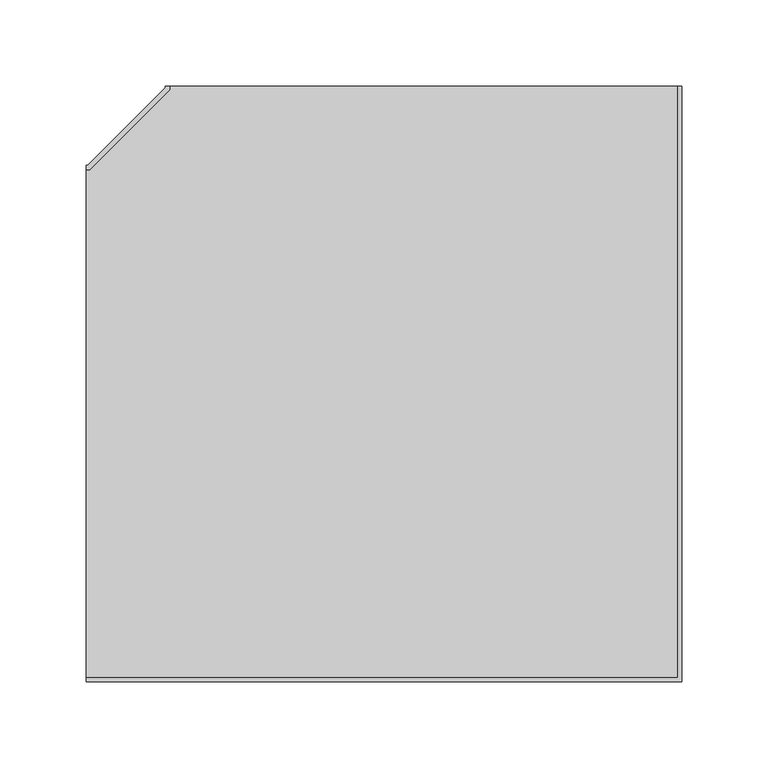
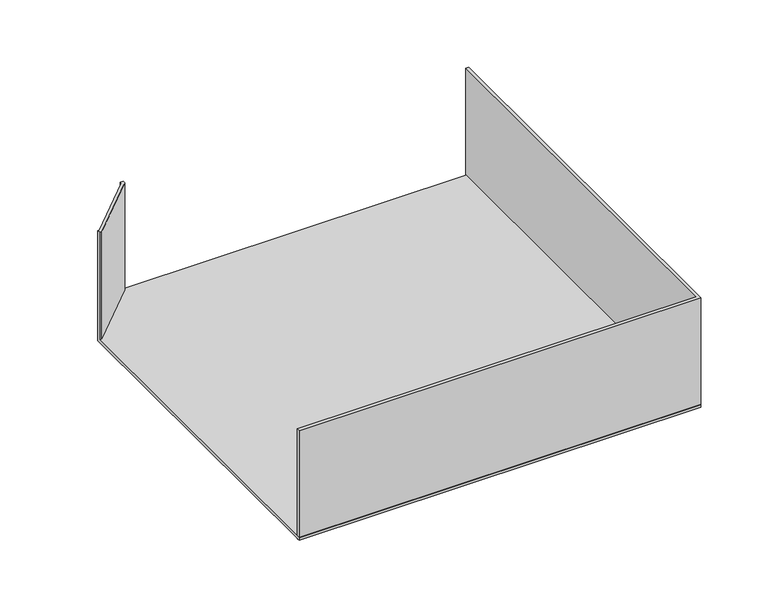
"""IFC4 building model written with IfcOpenShell, lengths in millimetres: cable carrier fitting geometry, BAKS_Horizontal bend : KKJ/KKMJ_H100."""

from ifc_helpers import new_model, si_unit, frame, origin, place, context, project, spatial, polyline, outline, extrude, faceted_brep, source, transform, mapped, element, save


def cable_carrier_fitting_42195290(model_context):
    return source(origin(), model_context, "Body", "SolidModel", [
        faceted_brep([(-196.0, 147.46, 50.0), (-196.0, 150.0, 50.0), (-196.0, 150.0, -50.0), (-196.0, -150.0, -50.0), (-196.0, -150.0, -47.46), (-196.0, 147.46, -47.46), (-193.9478976, 147.46, 50.0), (-147.46, 193.9478976, 50.0), (-147.46, 196.0, 50.0), (-150.0, 196.0, 50.0), (-150.0, 195.0, 50.0), (-195.0, 150.0, 50.0), (-195.0, 150.0, -47.46), (-195.0, 150.0, -50.0), (-150.0, 195.0, -50.0), (-150.0, 196.0, -50.0), (150.0, 196.0, -50.0), (150.0, -150.0, -50.0), (-193.9478976, 147.46, -47.46), (-150.0, 195.0, -47.46), (-147.46, 193.9478976, -47.46), (-147.46, 196.0, -47.46), (150.0, 196.0, -47.46), (150.0, -150.0, -47.46)], [[[0, 1, 2, 3, 4, 5]], [[1, 0, 6, 7, 8, 9, 10, 11]], [[2, 1, 11, 12, 13]], [[3, 2, 13, 14, 15, 16, 17]], [[6, 0, 5, 18]], [[11, 10, 19, 14, 13, 12]], [[7, 6, 18, 20]], [[9, 8, 21, 22, 16, 15]], [[10, 9, 15, 14, 19]], [[8, 7, 20, 21]], [[4, 23, 22, 21, 20, 18, 5]], [[23, 4, 3, 17]], [[22, 23, 17, 16]]]),
        extrude(outline(polyline([(-196.0, -150.0), (-196.0, -147.46), (147.46, -147.46), (147.46, 196.0), (150.0, 196.0), (150.0, -150.0), (-196.0, -150.0)])), frame((0.0, 0.0, -50.0), z_axis=(0.0, 0.0, 1.0), x_axis=(1.0, 0.0, 0.0)), (0.0, 0.0, 1.0), 100.0),
    ])


if __name__ == "__main__":
    model = new_model("IFC4")
    model_context = context("Model", 3, world=origin())
    ifc_project = project(units=[si_unit("LENGTHUNIT", "METRE", prefix="MILLI")], contexts=[model_context])
    site = spatial("IfcSite", under=ifc_project)
    building = spatial("IfcBuilding", under=site)
    placement = place(None, origin())
    cable_carrier_fitting_shape = cable_carrier_fitting_42195290(model_context)
    element("IfcCableCarrierFitting", 1, ObjectType="BAKS_Horizontal bend : KKJ/KKMJ_H100", at=placement, inside=building, context=model_context, shape_type="MappedRepresentation", body=[
        mapped(cable_carrier_fitting_shape, transform((0.0, 0.0, 0.0), x_axis=(1.0, 0.0, 0.0), y_axis=(0.0, 1.0, 0.0), z_axis=(0.0, 0.0, 1.0))),
    ])
    save(model, "model.ifc")
